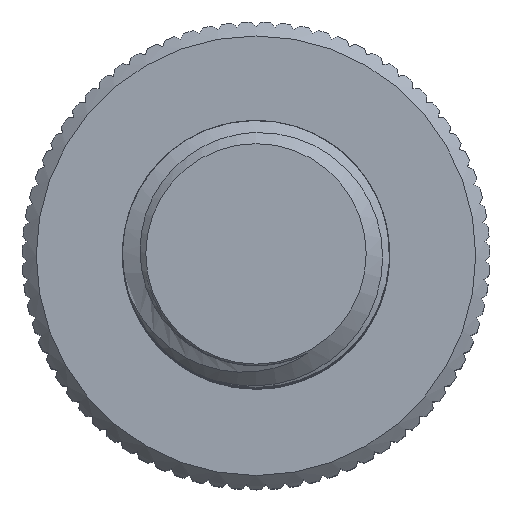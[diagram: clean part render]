
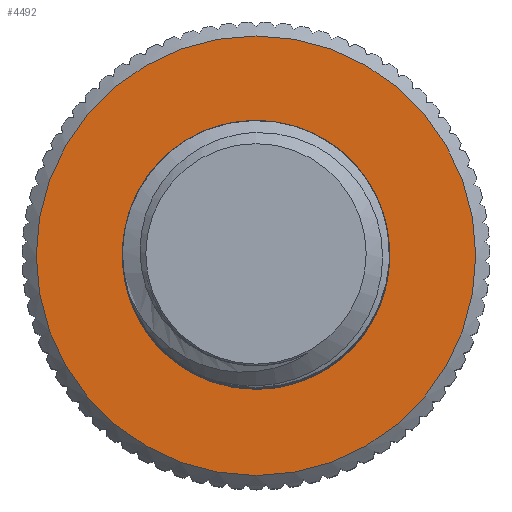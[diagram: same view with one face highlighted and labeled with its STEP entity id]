
A CAD part, top view. The second image highlights one B-rep face of the part: STEP entity #4492.
In plain terms, the highlighted planar face has unit normal (0, 0, 1).
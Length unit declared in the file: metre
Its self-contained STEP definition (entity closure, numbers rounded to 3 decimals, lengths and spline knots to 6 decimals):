
#1191=ORIENTED_EDGE('',*,*,#2546,.T.);
#1192=ORIENTED_EDGE('',*,*,#2547,.F.);
#2546=EDGE_CURVE('',#3186,#3186,#3510,.T.);
#2547=EDGE_CURVE('',#3187,#3187,#3511,.T.);
#3186=VERTEX_POINT('',#8095);
#3187=VERTEX_POINT('',#8097);
#3510=CIRCLE('',#5055,0.00329);
#3511=CIRCLE('',#5056,0.002);
#3822=EDGE_LOOP('',(#1191));
#3823=EDGE_LOOP('',(#1192));
#4077=FACE_BOUND('',#3822,.T.);
#4078=FACE_BOUND('',#3823,.T.);
#4332=PLANE('',#5054);
#4492=ADVANCED_FACE('',(#4077,#4078),#4332,.T.);
#5054=AXIS2_PLACEMENT_3D('',#8093,#6439,#6440);
#5055=AXIS2_PLACEMENT_3D('',#8094,#6441,#6442);
#5056=AXIS2_PLACEMENT_3D('',#8096,#6443,#6444);
#6439=DIRECTION('',(0.,0.,1.));
#6440=DIRECTION('',(0.,-1.,0.));
#6441=DIRECTION('',(0.,0.,1.));
#6442=DIRECTION('',(0.,1.,0.));
#6443=DIRECTION('',(0.,0.,1.));
#6444=DIRECTION('',(0.,-1.,0.));
#8093=CARTESIAN_POINT('',(0.,0.00329,0.));
#8094=CARTESIAN_POINT('',(0.,0.,0.));
#8095=CARTESIAN_POINT('',(0.,0.00329,0.));
#8096=CARTESIAN_POINT('',(0.,0.,0.));
#8097=CARTESIAN_POINT('',(0.,-0.002,0.));
